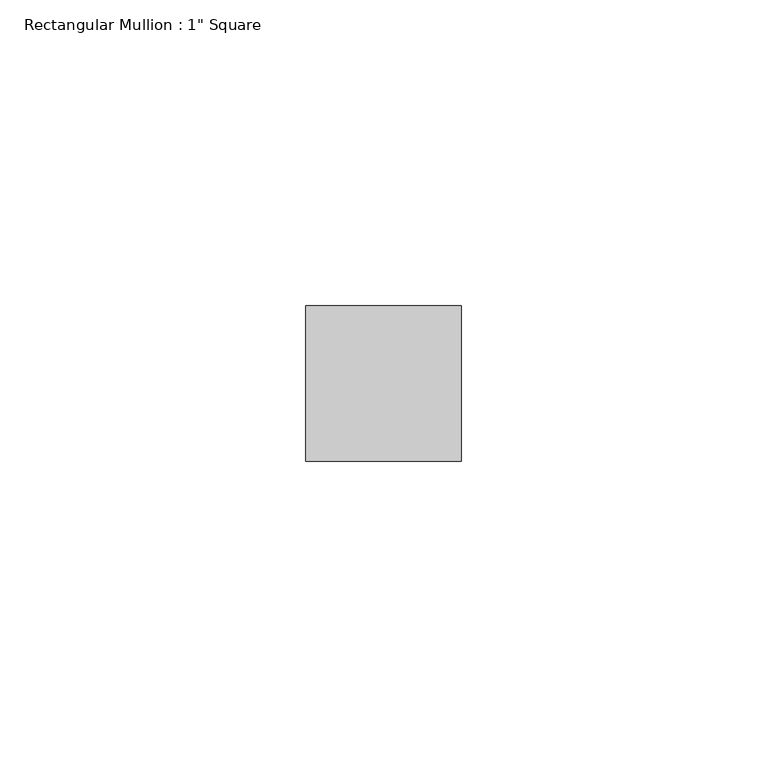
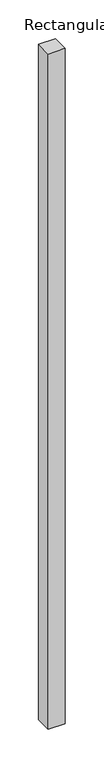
"""IFC4 building model written with IfcOpenShell, lengths in millimetres: member geometry."""

from ifc_helpers import new_model, si_unit, frame, origin, place, context, project, spatial, polyline, outline, extrude, source, transform, mapped, element, save


def member_bc60f01d(model_context):
    return source(origin(), model_context, "Body", "SweptSolid", [
        extrude(outline(polyline([(12.7, 12.7), (12.7, -12.7), (-12.7, -12.7), (-12.7, 12.7), (12.7, 12.7)])), frame((0.0, 0.0, -1066.6573899), z_axis=(0.0, 0.0, 1.0), x_axis=(1.0, 0.0, 0.0)), (0.0, 0.0, 1.0), 1066.6573899),
    ])


if __name__ == "__main__":
    model = new_model("IFC4")
    model_context = context("Model", 3, world=origin())
    ifc_project = project(units=[si_unit("LENGTHUNIT", "METRE", prefix="MILLI")], contexts=[model_context])
    site = spatial("IfcSite", under=ifc_project)
    building = spatial("IfcBuilding", under=site)
    placement = place(None, origin())
    member_shape = member_bc60f01d(model_context)
    element("IfcMember", 1, ObjectType="Rectangular Mullion : 1\" Square", at=placement, inside=building, context=model_context, shape_type="MappedRepresentation", body=[
        mapped(member_shape, transform((0.0, 0.0, 0.0), x_axis=(1.0, 0.0, 0.0), y_axis=(0.0, 1.0, 0.0), z_axis=(0.0, 0.0, 1.0))),
    ])
    save(model, "model.ifc")
